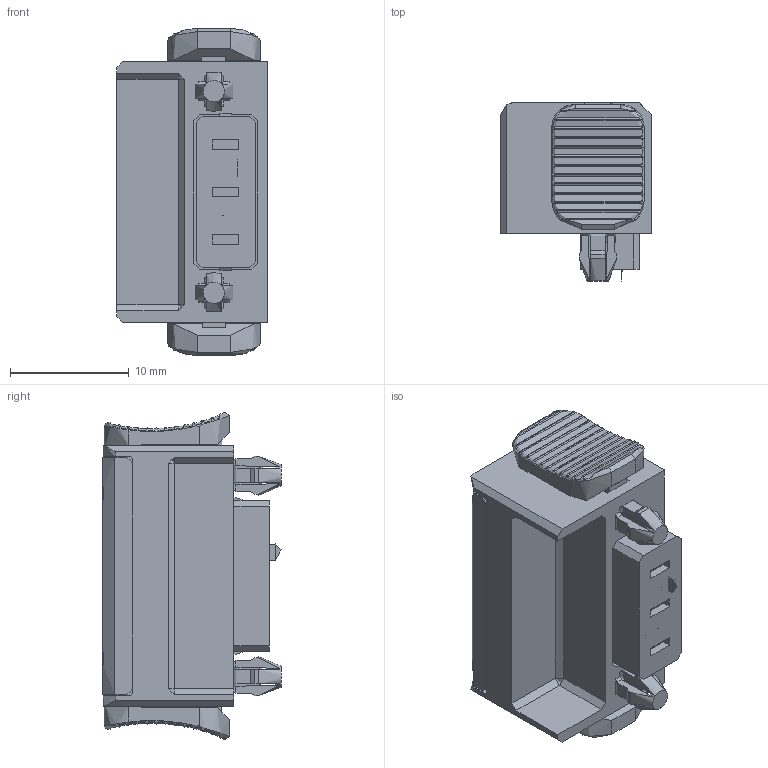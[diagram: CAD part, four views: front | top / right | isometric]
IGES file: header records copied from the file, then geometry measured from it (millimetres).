
Global section: file name: 21.03.212.113.2; native system: unknown; preprocessor: unknown; author: unknown; organization: unknown; date: 20221116.135810; units: millimetre
Bounding box: 12.7 x 15.02 x 27.62 mm (x, y, z)
Volume: 2706.6 mm3; surface area: 2661.6 mm2
Topology: 1 solids, 1 shells, 931 faces, 2603 edges, 1658 vertices
Faces by surface type: bspline 931
